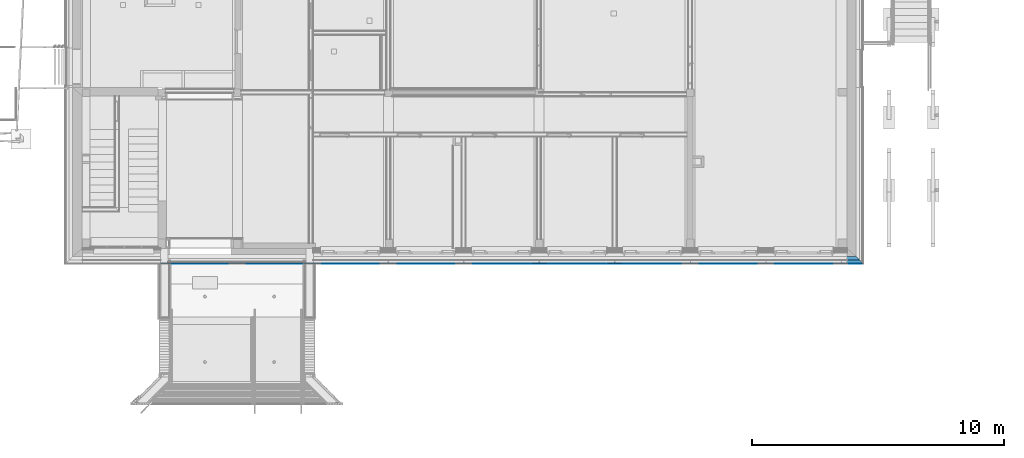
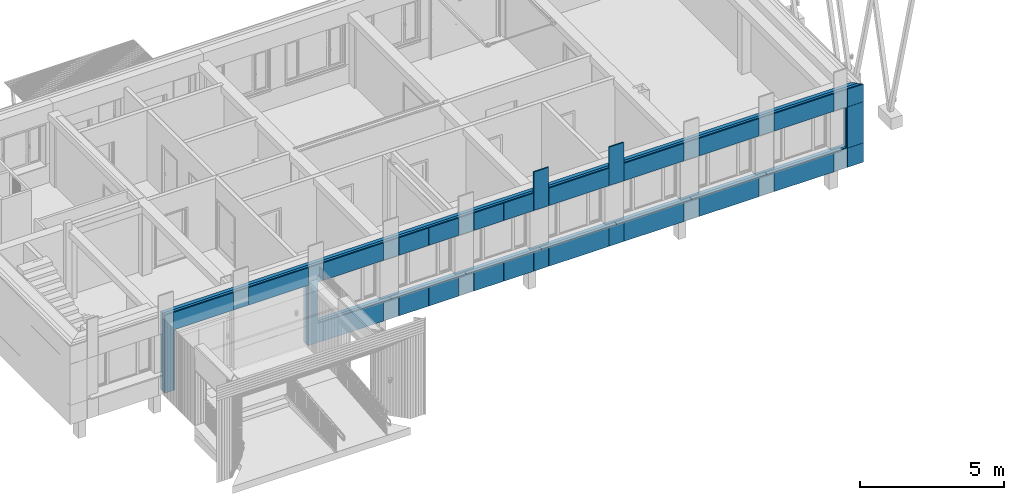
# One storey, part 39 of 418: 12 building element parts, 43 openings, 5 elements without a shape of their own.
"""IFC2X3 building model written with IfcOpenShell, lengths in millimetres."""

from ifc_helpers import new_model, entity, si_unit, converted_unit, derived_unit, money_unit, direction, frame, origin_with_axes, origin_2d_with_axis, place, context, subcontext, project, spatial, polyline, rectangle, outline, extrude, material, type_object, element, aggregate, save


model = new_model("IFC2X3")

# Units and contexts
model_context = context("Model", 3, precision=0.01, world=origin_with_axes(), true_north=direction((0.0, 1.0)))
body_context = subcontext(model_context, "Body", "Model", "MODEL_VIEW")
ifc_project = project(units=[si_unit("LENGTHUNIT", "METRE", prefix="MILLI"), si_unit("AREAUNIT", "SQUARE_METRE"), si_unit("VOLUMEUNIT", "CUBIC_METRE"), converted_unit("PLANEANGLEUNIT", "DEGREE", entity("IfcPlaneAngleMeasure", 0.0174532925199), si_unit("PLANEANGLEUNIT", "RADIAN"), dimensions=[0, 0, 0, 0, 0, 0, 0]), si_unit("SOLIDANGLEUNIT", "STERADIAN"), money_unit("EUR"), converted_unit("TIMEUNIT", "Year", entity("IfcTimeMeasure", 31556926.0), si_unit("TIMEUNIT", "SECOND"), dimensions=[0, 0, 1, 0, 0, 0, 0]), si_unit("MASSUNIT", "GRAM", prefix="KILO"), si_unit("THERMODYNAMICTEMPERATUREUNIT", "DEGREE_CELSIUS"), si_unit("LUMINOUSINTENSITYUNIT", "LUMEN"), si_unit("ENERGYUNIT", "JOULE", prefix="MEGA"), derived_unit("THERMALCONDUCTANCEUNIT", [(si_unit("POWERUNIT", "WATT"), 1), (si_unit("LENGTHUNIT", "METRE"), -1), (si_unit("THERMODYNAMICTEMPERATUREUNIT", "KELVIN"), -1)]), derived_unit("SPECIFICHEATCAPACITYUNIT", [(si_unit("ENERGYUNIT", "JOULE"), 1), (si_unit("MASSUNIT", "GRAM", prefix="KILO"), -1), (si_unit("THERMODYNAMICTEMPERATUREUNIT", "KELVIN"), -1)]), derived_unit("MASSDENSITYUNIT", [(si_unit("MASSUNIT", "GRAM", prefix="KILO"), 1), (si_unit("VOLUMEUNIT", "CUBIC_METRE"), -1)])], contexts=[model_context])

# Site, building, storey
site_placement = place(None, origin_with_axes())
site = spatial("IfcSite", under=ifc_project, at=site_placement, Name="Paldiski mnt 245/1, Tallinn, Harjumaa", CompositionType="COMPLEX")
building_placement = place(site_placement, origin_with_axes())
building = spatial("IfcBuilding", under=site, at=building_placement, Name="RKAS Hoone üldnimetus (kasutust iseloomustav) -> IFC Project Manager -> SOLIBRI", CompositionType="ELEMENT")
storey_placement = place(building_placement, origin_with_axes())
storey = spatial("IfcBuildingStorey", under=building, at=storey_placement, Name="Esimene korrus", CompositionType="ELEMENT", Elevation=0.0)

# Covering, building element parts
covering_type = type_object("IfcCoveringType", Name="VS-02_Cembrit_c040 50", PredefinedType="NOTDEFINED")
covering_1_placement = place(storey_placement, frame((-26746.0, -13130.0843011, 0.0), z_axis=(0.0, 0.0, 1.0), x_axis=(1.0, 0.0, 0.0)))
covering_1 = element("IfcCovering", 1, at=covering_1_placement, inside=storey, type_object=covering_type, Name="VS-02", PredefinedType="NOTDEFINED")
ifc_material_1 = material(Name="Cembrit_C040")
building_element_part_1_placement = place(covering_1_placement, origin_with_axes())
building_element_part_1 = element("IfcBuildingElementPart", 2, at=building_element_part_1_placement, material=ifc_material_1, Name="Cembrit_C040", context=body_context, shape_type="SweptSolid", body=[
    extrude(outline(polyline([(0.0, 0.0), (592.0, 0.0), (592.0, 8.0), (0.0, 8.0), (0.0, 0.0)])), origin_with_axes(), (0.0, 0.0, 1.0), 810.0),
])
ifc_material_2 = material(Name="VKR-06_Õhkvahe")
building_element_part_2_placement = place(covering_1_placement, origin_with_axes())
building_element_part_2 = element("IfcBuildingElementPart", 3, at=building_element_part_2_placement, material=ifc_material_2, Name="VKR-06_Õhkvahe", context=body_context, shape_type="SweptSolid", body=[
    extrude(outline(polyline([(0.0, 8.0), (592.0, 8.0), (592.0, 50.0), (0.0, 50.0), (0.0, 8.0)])), origin_with_axes(), (0.0, 0.0, 1.0), 810.0),
])
aggregate(covering_1, [building_element_part_1, building_element_part_2])

covering_2_placement = place(storey_placement, frame((-29746.0, -13130.0843011, 0.0), z_axis=(0.0, 0.0, 1.0), x_axis=(1.0, 0.0, 0.0)))
covering_2 = element("IfcCovering", 4, at=covering_2_placement, inside=storey, type_object=covering_type, Name="VS-02", PredefinedType="NOTDEFINED")
building_element_part_3_placement = place(covering_2_placement, origin_with_axes())
building_element_part_3 = element("IfcBuildingElementPart", 5, at=building_element_part_3_placement, material=ifc_material_1, Name="Cembrit_C040", context=body_context, shape_type="SweptSolid", body=[
    extrude(outline(polyline([(0.0, 0.0), (592.0, 0.0), (592.0, 8.0), (0.0, 8.0), (0.0, 0.0)])), origin_with_axes(), (0.0, 0.0, 1.0), 810.0),
])
building_element_part_4_placement = place(covering_2_placement, origin_with_axes())
building_element_part_4 = element("IfcBuildingElementPart", 6, at=building_element_part_4_placement, material=ifc_material_2, Name="VKR-06_Õhkvahe", context=body_context, shape_type="SweptSolid", body=[
    extrude(outline(polyline([(0.0, 8.0), (592.0, 8.0), (592.0, 50.0), (0.0, 50.0), (0.0, 8.0)])), origin_with_axes(), (0.0, 0.0, 1.0), 810.0),
])
aggregate(covering_2, [building_element_part_3, building_element_part_4])

covering_3_placement = place(storey_placement, frame((-29746.0, -13130.0843011, 2560.0), z_axis=(0.0, 0.0, 1.0), x_axis=(1.0, 0.0, 0.0)))
covering_3 = element("IfcCovering", 7, at=covering_3_placement, inside=storey, type_object=covering_type, Name="VS-02", PredefinedType="NOTDEFINED")
building_element_part_5_placement = place(covering_3_placement, origin_with_axes())
building_element_part_5 = element("IfcBuildingElementPart", 8, at=building_element_part_5_placement, material=ifc_material_1, Name="Cembrit_C040", context=body_context, shape_type="SweptSolid", body=[
    extrude(outline(polyline([(0.0, 0.0), (592.0, 0.0), (592.0, 8.0), (0.0, 8.0), (0.0, 0.0)])), origin_with_axes(), (0.0, 0.0, 1.0), 1630.0),
])
building_element_part_6_placement = place(covering_3_placement, origin_with_axes())
building_element_part_6 = element("IfcBuildingElementPart", 9, at=building_element_part_6_placement, material=ifc_material_2, Name="VKR-06_Õhkvahe", context=body_context, shape_type="SweptSolid", body=[
    extrude(outline(polyline([(0.0, 8.0), (592.0, 8.0), (592.0, 50.0), (0.0, 50.0), (0.0, 8.0)])), origin_with_axes(), (0.0, 0.0, 1.0), 1630.0),
])
aggregate(covering_3, [building_element_part_5, building_element_part_6])

# Wall, openings, building element parts
wall_type = type_object("IfcWallType", Name="VS-02_uued_kihid 300", PredefinedType="NOTDEFINED")
wall_placement = place(storey_placement, frame((-16879.9999755, -12830.0843011, 0.0), z_axis=(0.0, 0.0, 1.0), x_axis=(-1.0, 0.0, 0.0)))
wall = element("IfcWall", 10, at=wall_placement, inside=storey, type_object=wall_type, Name="VS-02")
opening_1_placement = place(wall_placement, frame((15570.0000245, -3.64153152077e-10, 0.0), z_axis=(0.0, 0.0, 1.0), x_axis=(1.0, 0.0, 0.0)))
element("IfcOpeningElement", 11, at=opening_1_placement, cuts=wall, Name="Cembrit fassaadiplaadi vuuk", context=body_context, shape_type="SweptSolid", body=[
    extrude(outline(polyline([(-296.0, 0.0), (296.0, 0.0), (296.0, 3300.0), (-296.0, 3300.0), (-296.0, 0.0)])), frame((0.0, 292.0, 0.0), z_axis=(0.0, -1.0, 0.0), x_axis=(1.0, 0.0, 0.0)), (0.0, 0.0, -1.0), 308.0),
])
opening_2_placement = place(wall_placement, frame((27474.5000245, -6.43041175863e-10, 0.0), z_axis=(0.0, 0.0, 1.0), x_axis=(1.0, 0.0, 0.0)))
element("IfcOpeningElement", 12, at=opening_2_placement, cuts=wall, Name="Cembrit fassaadiplaadi vuuk", context=body_context, shape_type="SweptSolid", body=[
    extrude(outline(polyline([(-200.5, 0.0), (200.5, 0.0), (200.5, 3300.0), (-200.5, 3300.0), (-200.5, 0.0)])), frame((0.0, 292.000000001, 0.0), z_axis=(0.0, -1.0, 0.0), x_axis=(1.0, 0.0, 0.0)), (0.0, 0.0, -1.0), 308.0),
])
opening_3_placement = place(wall_placement, frame((15870.0000245, -3.71258579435e-10, 0.0), z_axis=(0.0, 0.0, 1.0), x_axis=(1.0, 0.0, 0.0)))
element("IfcOpeningElement", 13, at=opening_3_placement, cuts=wall, Name="Cembrit fassaadiplaadi vuuk", context=body_context, shape_type="SweptSolid", body=[
    extrude(outline(polyline([(-4.0, 0.0), (4.0, 0.0), (4.0, 3300.0), (-4.0, 3300.0), (-4.0, 0.0)])), frame((0.0, 292.0, 0.0), z_axis=(0.0, -1.0, 0.0), x_axis=(1.0, 0.0, 0.0)), (0.0, 0.0, -1.0), 308.0),
])
opening_4_placement = place(wall_placement, frame((15270.0000245, -3.57047724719e-10, 0.0), z_axis=(0.0, 0.0, 1.0), x_axis=(1.0, 0.0, 0.0)))
element("IfcOpeningElement", 14, at=opening_4_placement, cuts=wall, Name="Cembrit fassaadiplaadi vuuk", context=body_context, shape_type="SweptSolid", body=[
    extrude(outline(polyline([(-4.0, 0.0), (4.0, 0.0), (4.0, 3300.0), (-4.0, 3300.0), (-4.0, 0.0)])), frame((0.0, 292.0, 0.0), z_axis=(0.0, -1.0, 0.0), x_axis=(1.0, 0.0, 0.0)), (0.0, 0.0, -1.0), 308.0),
])
opening_5_placement = place(wall_placement, frame((12870.0000245, -3.01980662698e-10, 0.0), z_axis=(0.0, 0.0, 1.0), x_axis=(1.0, 0.0, 0.0)))
element("IfcOpeningElement", 15, at=opening_5_placement, cuts=wall, Name="Cembrit fassaadiplaadi vuuk", context=body_context, shape_type="SweptSolid", body=[
    extrude(outline(polyline([(-4.0, 0.0), (4.0, 0.0), (4.0, 3300.0), (-4.0, 3300.0), (-4.0, 0.0)])), frame((0.0, 292.0, 0.0), z_axis=(0.0, -1.0, 0.0), x_axis=(1.0, 0.0, 0.0)), (0.0, 0.0, -1.0), 308.0),
])
opening_6_placement = place(wall_placement, frame((12270.0000245, -2.87769807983e-10, 0.0), z_axis=(0.0, 0.0, 1.0), x_axis=(1.0, 0.0, 0.0)))
element("IfcOpeningElement", 16, at=opening_6_placement, cuts=wall, Name="Cembrit fassaadiplaadi vuuk", context=body_context, shape_type="SweptSolid", body=[
    extrude(outline(polyline([(-4.0, 0.0), (4.0, 0.0), (4.0, 3300.0), (-4.0, 3300.0), (-4.0, 0.0)])), frame((0.0, 292.0, 0.0), z_axis=(0.0, -1.0, 0.0), x_axis=(1.0, 0.0, 0.0)), (0.0, 0.0, -1.0), 308.0),
])
opening_7_placement = place(wall_placement, frame((9870.00002449, -2.30926389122e-10, 0.0), z_axis=(0.0, 0.0, 1.0), x_axis=(1.0, 0.0, 0.0)))
element("IfcOpeningElement", 17, at=opening_7_placement, cuts=wall, Name="Cembrit fassaadiplaadi vuuk", context=body_context, shape_type="SweptSolid", body=[
    extrude(outline(polyline([(-4.0, 0.0), (4.0, 0.0), (4.0, 3300.0), (-4.0, 3300.0), (-4.0, 0.0)])), frame((0.0, 292.0, 0.0), z_axis=(0.0, -1.0, 0.0), x_axis=(1.0, 0.0, 0.0)), (0.0, 0.0, -1.0), 308.0),
])
opening_8_placement = place(wall_placement, frame((9270.00002449, -2.16715534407e-10, 0.0), z_axis=(0.0, 0.0, 1.0), x_axis=(1.0, 0.0, 0.0)))
element("IfcOpeningElement", 18, at=opening_8_placement, cuts=wall, Name="Cembrit fassaadiplaadi vuuk", context=body_context, shape_type="SweptSolid", body=[
    extrude(outline(polyline([(-4.0, 0.0), (4.0, 0.0), (4.0, 3300.0), (-4.0, 3300.0), (-4.0, 0.0)])), frame((0.0, 292.0, 0.0), z_axis=(0.0, -1.0, 0.0), x_axis=(1.0, 0.0, 0.0)), (0.0, 0.0, -1.0), 308.0),
])
opening_9_placement = place(wall_placement, frame((6870.00002449, -1.61648472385e-10, 0.0), z_axis=(0.0, 0.0, 1.0), x_axis=(1.0, 0.0, 0.0)))
element("IfcOpeningElement", 19, at=opening_9_placement, cuts=wall, Name="Cembrit fassaadiplaadi vuuk", context=body_context, shape_type="SweptSolid", body=[
    extrude(outline(polyline([(-4.0, 0.0), (4.0, 0.0), (4.0, 3300.0), (-4.0, 3300.0), (-4.0, 0.0)])), frame((0.0, 292.0, 0.0), z_axis=(0.0, -1.0, 0.0), x_axis=(1.0, 0.0, 0.0)), (0.0, 0.0, -1.0), 308.0),
])
opening_10_placement = place(wall_placement, frame((6270.00002449, -1.4743761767e-10, 0.0), z_axis=(0.0, 0.0, 1.0), x_axis=(1.0, 0.0, 0.0)))
element("IfcOpeningElement", 20, at=opening_10_placement, cuts=wall, Name="Cembrit fassaadiplaadi vuuk", context=body_context, shape_type="SweptSolid", body=[
    extrude(outline(polyline([(-4.0, 0.0), (4.0, 0.0), (4.0, 3300.0), (-4.0, 3300.0), (-4.0, 0.0)])), frame((0.0, 292.0, 0.0), z_axis=(0.0, -1.0, 0.0), x_axis=(1.0, 0.0, 0.0)), (0.0, 0.0, -1.0), 308.0),
])
opening_11_placement = place(wall_placement, frame((3870.00002449, 0.0, 0.0), z_axis=(0.0, 0.0, 1.0), x_axis=(1.0, 0.0, 0.0)))
element("IfcOpeningElement", 21, at=opening_11_placement, cuts=wall, Name="Cembrit fassaadiplaadi vuuk", context=body_context, shape_type="SweptSolid", body=[
    extrude(outline(polyline([(-4.0, 0.0), (4.0, 0.0), (4.0, 3300.0), (-4.0, 3300.0), (-4.0, 0.0)])), frame((0.0, 292.0, 0.0), z_axis=(0.0, -1.0, 0.0), x_axis=(1.0, 0.0, 0.0)), (0.0, 0.0, -1.0), 308.0),
])
opening_12_placement = place(wall_placement, frame((3270.00002449, 0.0, 0.0), z_axis=(0.0, 0.0, 1.0), x_axis=(1.0, 0.0, 0.0)))
element("IfcOpeningElement", 22, at=opening_12_placement, cuts=wall, Name="Cembrit fassaadiplaadi vuuk", context=body_context, shape_type="SweptSolid", body=[
    extrude(outline(polyline([(-4.0, 0.0), (4.0, 0.0), (4.0, 3300.0), (-4.0, 3300.0), (-4.0, 0.0)])), frame((0.0, 292.0, 0.0), z_axis=(0.0, -1.0, 0.0), x_axis=(1.0, 0.0, 0.0)), (0.0, 0.0, -1.0), 308.0),
])
opening_13_placement = place(wall_placement, frame((870.000024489, 0.0, 0.0), z_axis=(0.0, 0.0, 1.0), x_axis=(1.0, 0.0, 0.0)))
element("IfcOpeningElement", 23, at=opening_13_placement, cuts=wall, Name="Cembrit fassaadiplaadi vuuk", context=body_context, shape_type="SweptSolid", body=[
    extrude(outline(polyline([(-4.0, 0.0), (4.0, 0.0), (4.0, 3300.0), (-4.0, 3300.0), (-4.0, 0.0)])), frame((0.0, 292.0, 0.0), z_axis=(0.0, -1.0, 0.0), x_axis=(1.0, 0.0, 0.0)), (0.0, 0.0, -1.0), 308.0),
])
opening_14_placement = place(wall_placement, frame((12570.0000245, -2.9487523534e-10, 0.0), z_axis=(0.0, 0.0, 1.0), x_axis=(1.0, 0.0, 0.0)))
element("IfcOpeningElement", 24, at=opening_14_placement, cuts=wall, Name="Cembrit fassaadiplaadi vuuk", context=body_context, shape_type="SweptSolid", body=[
    extrude(outline(polyline([(-296.0, 0.0), (296.0, 0.0), (296.0, 3300.0), (-296.0, 3300.0), (-296.0, 0.0)])), frame((0.0, 292.0, 0.0), z_axis=(0.0, -1.0, 0.0), x_axis=(1.0, 0.0, 0.0)), (0.0, 0.0, -1.0), 308.0),
])
opening_15_placement = place(wall_placement, frame((9570.00002449, -2.23820961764e-10, 0.0), z_axis=(0.0, 0.0, 1.0), x_axis=(1.0, 0.0, 0.0)))
element("IfcOpeningElement", 25, at=opening_15_placement, cuts=wall, Name="Cembrit fassaadiplaadi vuuk", context=body_context, shape_type="SweptSolid", body=[
    extrude(outline(polyline([(-296.0, 0.0), (296.0, 0.0), (296.0, 3300.0), (-296.0, 3300.0), (-296.0, 0.0)])), frame((0.0, 292.0, 0.0), z_axis=(0.0, -1.0, 0.0), x_axis=(1.0, 0.0, 0.0)), (0.0, 0.0, -1.0), 308.0),
])
opening_16_placement = place(wall_placement, frame((6570.00002449, -1.54543045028e-10, 0.0), z_axis=(0.0, 0.0, 1.0), x_axis=(1.0, 0.0, 0.0)))
element("IfcOpeningElement", 26, at=opening_16_placement, cuts=wall, Name="Cembrit fassaadiplaadi vuuk", context=body_context, shape_type="SweptSolid", body=[
    extrude(outline(polyline([(-296.0, 0.0), (296.0, 0.0), (296.0, 3300.0), (-296.0, 3300.0), (-296.0, 0.0)])), frame((0.0, 292.0, 0.0), z_axis=(0.0, -1.0, 0.0), x_axis=(1.0, 0.0, 0.0)), (0.0, 0.0, -1.0), 308.0),
])
opening_17_placement = place(wall_placement, frame((3570.00002449, 0.0, 0.0), z_axis=(0.0, 0.0, 1.0), x_axis=(1.0, 0.0, 0.0)))
element("IfcOpeningElement", 27, at=opening_17_placement, cuts=wall, Name="Cembrit fassaadiplaadi vuuk", context=body_context, shape_type="SweptSolid", body=[
    extrude(outline(polyline([(-296.0, 0.0), (296.0, 0.0), (296.0, 3300.0), (-296.0, 3300.0), (-296.0, 0.0)])), frame((0.0, 292.0, 0.0), z_axis=(0.0, -1.0, 0.0), x_axis=(1.0, 0.0, 0.0)), (0.0, 0.0, -1.0), 308.0),
])
opening_18_placement = place(wall_placement, frame((608.000024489, 0.0, 0.0), z_axis=(0.0, 0.0, 1.0), x_axis=(1.0, 0.0, 0.0)))
element("IfcOpeningElement", 28, at=opening_18_placement, cuts=wall, Name="Cembrit fassaadiplaadi vuuk", context=body_context, shape_type="SweptSolid", body=[
    extrude(outline(polyline([(-258.0, 0.0), (258.0, 0.0), (258.0, 3300.0), (-258.0, 3300.0), (-258.0, 0.0)])), frame((0.0, 292.0, 0.0), z_axis=(0.0, -1.0, 0.0), x_axis=(1.0, 0.0, 0.0)), (0.0, 0.0, -1.0), 308.0),
])
opening_19_placement = place(wall_placement, frame((18570.0000245, -4.35207425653e-10, 0.0), z_axis=(0.0, 0.0, 1.0), x_axis=(1.0, 0.0, 0.0)))
element("IfcOpeningElement", 29, at=opening_19_placement, cuts=wall, Name="Cembrit fassaadiplaadi vuuk", context=body_context, shape_type="SweptSolid", body=[
    extrude(outline(polyline([(-296.0, 0.0), (296.0, 0.0), (296.0, 3300.0), (-296.0, 3300.0), (-296.0, 0.0)])), frame((0.0, 292.0, 0.0), z_axis=(0.0, -1.0, 0.0), x_axis=(1.0, 0.0, 0.0)), (0.0, 0.0, -1.0), 308.0),
])
opening_20_placement = place(wall_placement, frame((18870.0000245, -4.42312853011e-10, 0.0), z_axis=(0.0, 0.0, 1.0), x_axis=(1.0, 0.0, 0.0)))
element("IfcOpeningElement", 30, at=opening_20_placement, cuts=wall, Name="Cembrit fassaadiplaadi vuuk", context=body_context, shape_type="SweptSolid", body=[
    extrude(outline(polyline([(-4.0, 0.0), (4.0, 0.0), (4.0, 3300.0), (-4.0, 3300.0), (-4.0, 0.0)])), frame((0.0, 292.0, 0.0), z_axis=(0.0, -1.0, 0.0), x_axis=(1.0, 0.0, 0.0)), (0.0, 0.0, -1.0), 308.0),
])
opening_21_placement = place(wall_placement, frame((18270.0000245, -4.28101998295e-10, 0.0), z_axis=(0.0, 0.0, 1.0), x_axis=(1.0, 0.0, 0.0)))
element("IfcOpeningElement", 31, at=opening_21_placement, cuts=wall, Name="Cembrit fassaadiplaadi vuuk", context=body_context, shape_type="SweptSolid", body=[
    extrude(outline(polyline([(-4.0, 0.0), (4.0, 0.0), (4.0, 3300.0), (-4.0, 3300.0), (-4.0, 0.0)])), frame((0.0, 292.0, 0.0), z_axis=(0.0, -1.0, 0.0), x_axis=(1.0, 0.0, 0.0)), (0.0, 0.0, -1.0), 308.0),
])
opening_22_placement = place(wall_placement, frame((21570.0000245, -5.0448534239e-10, 0.0), z_axis=(0.0, 0.0, 1.0), x_axis=(1.0, 0.0, 0.0)))
element("IfcOpeningElement", 32, at=opening_22_placement, cuts=wall, Name="Cembrit fassaadiplaadi vuuk", context=body_context, shape_type="SweptSolid", body=[
    extrude(outline(polyline([(-296.0, 0.0), (296.0, 0.0), (296.0, 3300.0), (-296.0, 3300.0), (-296.0, 0.0)])), frame((0.0, 292.000000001, 0.0), z_axis=(0.0, -1.0, 0.0), x_axis=(1.0, 0.0, 0.0)), (0.0, 0.0, -1.0), 308.0),
])
opening_23_placement = place(wall_placement, frame((21870.0000245, -5.11590769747e-10, 0.0), z_axis=(0.0, 0.0, 1.0), x_axis=(1.0, 0.0, 0.0)))
element("IfcOpeningElement", 33, at=opening_23_placement, cuts=wall, Name="Cembrit fassaadiplaadi vuuk", context=body_context, shape_type="SweptSolid", body=[
    extrude(outline(polyline([(-4.0, 0.0), (4.0, 0.0), (4.0, 3300.0), (-4.0, 3300.0), (-4.0, 0.0)])), frame((0.0, 292.000000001, 0.0), z_axis=(0.0, -1.0, 0.0), x_axis=(1.0, 0.0, 0.0)), (0.0, 0.0, -1.0), 308.0),
])
opening_24_placement = place(wall_placement, frame((21270.0000245, -4.97379915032e-10, 0.0), z_axis=(0.0, 0.0, 1.0), x_axis=(1.0, 0.0, 0.0)))
element("IfcOpeningElement", 34, at=opening_24_placement, cuts=wall, Name="Cembrit fassaadiplaadi vuuk", context=body_context, shape_type="SweptSolid", body=[
    extrude(outline(polyline([(-4.0, 0.0), (4.0, 0.0), (4.0, 3300.0), (-4.0, 3300.0), (-4.0, 0.0)])), frame((0.0, 292.0, 0.0), z_axis=(0.0, -1.0, 0.0), x_axis=(1.0, 0.0, 0.0)), (0.0, 0.0, -1.0), 308.0),
])
opening_25_placement = place(wall_placement, frame((24870.0000245, -5.82645043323e-10, 0.0), z_axis=(0.0, 0.0, 1.0), x_axis=(1.0, 0.0, 0.0)))
element("IfcOpeningElement", 35, at=opening_25_placement, cuts=wall, Name="Cembrit fassaadiplaadi vuuk", context=body_context, shape_type="SweptSolid", body=[
    extrude(outline(polyline([(-4.0, 0.0), (4.0, 0.0), (4.0, 3300.0), (-4.0, 3300.0), (-4.0, 0.0)])), frame((0.0, 292.000000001, 0.0), z_axis=(0.0, -1.0, 0.0), x_axis=(1.0, 0.0, 0.0)), (0.0, 0.0, -1.0), 308.0),
])
opening_26_placement = place(wall_placement, frame((24270.0000245, -5.68434188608e-10, 0.0), z_axis=(0.0, 0.0, 1.0), x_axis=(1.0, 0.0, 0.0)))
element("IfcOpeningElement", 36, at=opening_26_placement, cuts=wall, Name="Cembrit fassaadiplaadi vuuk", context=body_context, shape_type="SweptSolid", body=[
    extrude(outline(polyline([(-4.0, 0.0), (4.0, 0.0), (4.0, 3300.0), (-4.0, 3300.0), (-4.0, 0.0)])), frame((0.0, 292.000000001, 0.0), z_axis=(0.0, -1.0, 0.0), x_axis=(1.0, 0.0, 0.0)), (0.0, 0.0, -1.0), 308.0),
])
opening_27_placement = place(wall_placement, frame((24570.0000245, -5.75539615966e-10, 0.0), z_axis=(0.0, 0.0, 1.0), x_axis=(1.0, 0.0, 0.0)))
element("IfcOpeningElement", 37, at=opening_27_placement, cuts=wall, Name="Cembrit fassaadiplaadi vuuk", context=body_context, shape_type="SweptSolid", body=[
    extrude(outline(polyline([(-296.0, 0.0), (296.0, 0.0), (296.0, 3300.0), (-296.0, 3300.0), (-296.0, 0.0)])), frame((0.0, 292.000000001, 0.0), z_axis=(0.0, -1.0, 0.0), x_axis=(1.0, 0.0, 0.0)), (0.0, 0.0, -1.0), 308.0),
])
opening_28_placement = place(wall_placement, frame((27270.0000245, -6.39488462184e-10, 0.0), z_axis=(0.0, 0.0, 1.0), x_axis=(1.0, 0.0, 0.0)))
element("IfcOpeningElement", 38, at=opening_28_placement, cuts=wall, Name="Cembrit fassaadiplaadi vuuk", context=body_context, shape_type="SweptSolid", body=[
    extrude(outline(polyline([(-4.0, 0.0), (4.0, 0.0), (4.0, 3300.0), (-4.0, 3300.0), (-4.0, 0.0)])), frame((0.0, 292.000000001, 0.0), z_axis=(0.0, -1.0, 0.0), x_axis=(1.0, 0.0, 0.0)), (0.0, 0.0, -1.0), 308.0),
])
opening_29_placement = place(wall_placement, frame((26070.0000245, -6.11066752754e-10, 0.0), z_axis=(0.0, 0.0, 1.0), x_axis=(1.0, 0.0, 0.0)))
element("IfcOpeningElement", 39, at=opening_29_placement, cuts=wall, Name="Cembrit fassaadiplaadi vuuk", context=body_context, shape_type="SweptSolid", body=[
    extrude(outline(polyline([(-4.0, 0.0), (4.0, 0.0), (4.0, 3300.0), (-4.0, 3300.0), (-4.0, 0.0)])), frame((0.0, 292.000000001, 0.0), z_axis=(0.0, -1.0, 0.0), x_axis=(1.0, 0.0, 0.0)), (0.0, 0.0, -1.0), 308.0),
])
opening_30_placement = place(wall_placement, frame((23070.0000245, -5.40012479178e-10, 0.0), z_axis=(0.0, 0.0, 1.0), x_axis=(1.0, 0.0, 0.0)))
element("IfcOpeningElement", 40, at=opening_30_placement, cuts=wall, Name="Cembrit fassaadiplaadi vuuk", context=body_context, shape_type="SweptSolid", body=[
    extrude(outline(polyline([(-4.0, 0.0), (4.0, 0.0), (4.0, 3300.0), (-4.0, 3300.0), (-4.0, 0.0)])), frame((0.0, 292.000000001, 0.0), z_axis=(0.0, -1.0, 0.0), x_axis=(1.0, 0.0, 0.0)), (0.0, 0.0, -1.0), 308.0),
])
opening_31_placement = place(wall_placement, frame((20070.0000245, -4.70734562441e-10, 0.0), z_axis=(0.0, 0.0, 1.0), x_axis=(1.0, 0.0, 0.0)))
element("IfcOpeningElement", 41, at=opening_31_placement, cuts=wall, Name="Cembrit fassaadiplaadi vuuk", context=body_context, shape_type="SweptSolid", body=[
    extrude(outline(polyline([(-4.0, 0.0), (4.0, 0.0), (4.0, 3300.0), (-4.0, 3300.0), (-4.0, 0.0)])), frame((0.0, 292.0, 0.0), z_axis=(0.0, -1.0, 0.0), x_axis=(1.0, 0.0, 0.0)), (0.0, 0.0, -1.0), 308.0),
])
opening_32_placement = place(wall_placement, frame((17070.0000245, -3.99680288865e-10, 0.0), z_axis=(0.0, 0.0, 1.0), x_axis=(1.0, 0.0, 0.0)))
element("IfcOpeningElement", 42, at=opening_32_placement, cuts=wall, Name="Cembrit fassaadiplaadi vuuk", context=body_context, shape_type="SweptSolid", body=[
    extrude(outline(polyline([(-4.0, 0.0), (4.0, 0.0), (4.0, 3300.0), (-4.0, 3300.0), (-4.0, 0.0)])), frame((0.0, 292.0, 0.0), z_axis=(0.0, -1.0, 0.0), x_axis=(1.0, 0.0, 0.0)), (0.0, 0.0, -1.0), 308.0),
])
opening_33_placement = place(wall_placement, frame((14070.0000245, -3.28626015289e-10, 0.0), z_axis=(0.0, 0.0, 1.0), x_axis=(1.0, 0.0, 0.0)))
element("IfcOpeningElement", 43, at=opening_33_placement, cuts=wall, Name="Cembrit fassaadiplaadi vuuk", context=body_context, shape_type="SweptSolid", body=[
    extrude(outline(polyline([(-4.0, 0.0), (4.0, 0.0), (4.0, 3300.0), (-4.0, 3300.0), (-4.0, 0.0)])), frame((0.0, 292.0, 0.0), z_axis=(0.0, -1.0, 0.0), x_axis=(1.0, 0.0, 0.0)), (0.0, 0.0, -1.0), 308.0),
])
opening_34_placement = place(wall_placement, frame((11070.0000245, -2.59348098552e-10, 0.0), z_axis=(0.0, 0.0, 1.0), x_axis=(1.0, 0.0, 0.0)))
element("IfcOpeningElement", 44, at=opening_34_placement, cuts=wall, Name="Cembrit fassaadiplaadi vuuk", context=body_context, shape_type="SweptSolid", body=[
    extrude(outline(polyline([(-4.0, 0.0), (4.0, 0.0), (4.0, 3300.0), (-4.0, 3300.0), (-4.0, 0.0)])), frame((0.0, 292.0, 0.0), z_axis=(0.0, -1.0, 0.0), x_axis=(1.0, 0.0, 0.0)), (0.0, 0.0, -1.0), 308.0),
])
opening_35_placement = place(wall_placement, frame((8070.00002449, -1.88293824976e-10, 0.0), z_axis=(0.0, 0.0, 1.0), x_axis=(1.0, 0.0, 0.0)))
element("IfcOpeningElement", 45, at=opening_35_placement, cuts=wall, Name="Cembrit fassaadiplaadi vuuk", context=body_context, shape_type="SweptSolid", body=[
    extrude(outline(polyline([(-4.0, 0.0), (4.0, 0.0), (4.0, 3300.0), (-4.0, 3300.0), (-4.0, 0.0)])), frame((0.0, 292.0, 0.0), z_axis=(0.0, -1.0, 0.0), x_axis=(1.0, 0.0, 0.0)), (0.0, 0.0, -1.0), 308.0),
])
opening_36_placement = place(wall_placement, frame((5070.00002449, -1.1901590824e-10, 0.0), z_axis=(0.0, 0.0, 1.0), x_axis=(1.0, 0.0, 0.0)))
element("IfcOpeningElement", 46, at=opening_36_placement, cuts=wall, Name="Cembrit fassaadiplaadi vuuk", context=body_context, shape_type="SweptSolid", body=[
    extrude(outline(polyline([(-4.0, 0.0), (4.0, 0.0), (4.0, 3300.0), (-4.0, 3300.0), (-4.0, 0.0)])), frame((0.0, 292.0, 0.0), z_axis=(0.0, -1.0, 0.0), x_axis=(1.0, 0.0, 0.0)), (0.0, 0.0, -1.0), 308.0),
])
opening_37_placement = place(wall_placement, frame((2070.00002449, 0.0, 0.0), z_axis=(0.0, 0.0, 1.0), x_axis=(1.0, 0.0, 0.0)))
element("IfcOpeningElement", 47, at=opening_37_placement, cuts=wall, Name="Cembrit fassaadiplaadi vuuk", context=body_context, shape_type="SweptSolid", body=[
    extrude(outline(polyline([(-4.0, 0.0), (4.0, 0.0), (4.0, 3300.0), (-4.0, 3300.0), (-4.0, 0.0)])), frame((0.0, 292.0, 0.0), z_axis=(0.0, -1.0, 0.0), x_axis=(1.0, 0.0, 0.0)), (0.0, 0.0, -1.0), 308.0),
])
opening_38_placement = place(wall_placement, frame((346.000024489, 0.0, 0.0), z_axis=(0.0, 0.0, 1.0), x_axis=(1.0, 0.0, 0.0)))
element("IfcOpeningElement", 48, at=opening_38_placement, cuts=wall, Name="Cembrit fassaadiplaadi vuuk", context=body_context, shape_type="SweptSolid", body=[
    extrude(outline(polyline([(-4.0, 0.0), (4.0, 0.0), (4.0, 3300.0), (-4.0, 3300.0), (-4.0, 0.0)])), frame((0.0, 292.0, 0.0), z_axis=(0.0, -1.0, 0.0), x_axis=(1.0, 0.0, 0.0)), (0.0, 0.0, -1.0), 308.0),
])
opening_39_placement = place(wall_placement, frame((15550.0000122, -3.64153152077e-10, 2552.0), z_axis=(0.0, 0.0, 1.0), x_axis=(1.0, 0.0, 0.0)))
element("IfcOpeningElement", 49, at=opening_39_placement, cuts=wall, Name="Cembrit fassaadiplaadi vuuk", context=body_context, shape_type="SweptSolid", body=[
    extrude(outline(polyline([(-15850.0000122, 0.0), (15850.0000122, 0.0), (15850.0000122, 8.0), (-15850.0000122, 8.0), (-15850.0000122, 0.0)])), frame((0.0, 292.0, 0.0), z_axis=(0.0, -1.0, 0.0), x_axis=(1.0, 0.0, 0.0)), (0.0, 0.0, -1.0), 308.0),
])
opening_40_placement = place(wall_placement, frame((15535.0000122, -3.64153152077e-10, 810.0), z_axis=(0.0, 0.0, 1.0), x_axis=(1.0, 0.0, 0.0)))
element("IfcOpeningElement", 50, at=opening_40_placement, cuts=wall, Name="Cembrit fassaadiplaadi vuuk", context=body_context, shape_type="SweptSolid", body=[
    extrude(outline(polyline([(-15835.0000122, 0.0), (15835.0000122, 0.0), (15835.0000122, 8.0), (-15835.0000122, 8.0), (-15835.0000122, 0.0)])), frame((0.0, 292.0, 0.0), z_axis=(0.0, -1.0, 0.0), x_axis=(1.0, 0.0, 0.0)), (0.0, 0.0, -1.0), 308.0),
])
opening_41_placement = place(wall_placement, frame((18270.0000245, -4.28101998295e-10, 0.0), z_axis=(0.0, 0.0, 1.0), x_axis=(1.0, 0.0, 0.0)))
element("IfcOpeningElement", 51, at=opening_41_placement, cuts=wall, Name="Cembrit fassaadiplaadi vuuk", context=body_context, shape_type="SweptSolid", body=[
    extrude(outline(polyline([(-4.0, 0.0), (4.0, 0.0), (4.0, 3300.0), (-4.0, 3300.0), (-4.0, 0.0)])), frame((0.0, 292.0, 0.0), z_axis=(0.0, -1.0, 0.0), x_axis=(1.0, 0.0, 0.0)), (0.0, 0.0, -1.0), 308.0),
])
opening_42_placement = place(wall_placement, frame((-16879.9999755, -12830.0843011, 0.0), z_axis=(0.0, 0.0, 1.0), x_axis=(-1.0, 0.0, 0.0)))
element("IfcOpeningElement", 52, at=opening_42_placement, cuts=wall, Name="AVA", ObjectType="OPENING", context=body_context, shape_type="SweptSolid", body=[
    extrude(rectangle(XDim=21140.0000522, YDim=1750.0, at=origin_2d_with_axis()), frame((-27800.0000261, -12530.0843011, 1685.0), z_axis=(0.0, 1.0, 0.0), x_axis=(-1.0, 0.0, 0.0)), (0.0, 0.0, -1.0), 900.000000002),
])
opening_43_placement = place(wall_placement, frame((-16879.9999755, -12830.0843011, 0.0), z_axis=(0.0, 0.0, 1.0), x_axis=(-1.0, 0.0, 0.0)))
element("IfcOpeningElement", 53, at=opening_43_placement, cuts=wall, Name="AVA", ObjectType="OPENING", context=body_context, shape_type="SweptSolid", body=[
    extrude(rectangle(XDim=5325.0, YDim=2557.99999904, at=origin_2d_with_axis()), frame((-41431.9999997, -12530.0843011, 1278.99999952), z_axis=(0.0, 1.0, 0.0), x_axis=(-1.0, 0.0, 0.0)), (0.0, 0.0, -1.0), 900.000000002),
])
ifc_material_3 = material(Name="Cembrit_C020")
building_element_part_7_placement = place(wall_placement, origin_with_axes())
building_element_part_7 = element("IfcBuildingElementPart", 54, at=building_element_part_7_placement, material=ifc_material_3, Name="Cembrit_C020", context=body_context, shape_type="SweptSolid", body=[
    extrude(outline(polyline([(-292.0, 292.0), (27610.0000245, 292.0), (27610.0000245, 300.0), (-300.0, 300.0), (-292.0, 292.0)])), origin_with_axes(), (0.0, 0.0, 1.0), 3300.0),
])
building_element_part_8_placement = place(wall_placement, origin_with_axes())
building_element_part_8 = element("IfcBuildingElementPart", 55, at=building_element_part_8_placement, material=ifc_material_2, Name="VKR-06_Õhkvahe", context=body_context, shape_type="SweptSolid", body=[
    extrude(outline(polyline([(-250.0, 250.0), (27610.0000245, 250.0), (27610.0000245, 292.0), (-292.0, 292.0), (-250.0, 250.0)])), origin_with_axes(), (0.0, 0.0, 1.0), 3300.0),
])
ifc_material_4 = material(Name="Kingspan Kooltherm")
building_element_part_9_placement = place(wall_placement, origin_with_axes())
building_element_part_9 = element("IfcBuildingElementPart", 56, at=building_element_part_9_placement, material=ifc_material_4, Name="Kingspan Kooltherm", context=body_context, shape_type="SweptSolid", body=[
    extrude(outline(polyline([(-150.0, 150.0), (27610.0000245, 150.0), (27610.0000245, 250.0), (-250.0, 250.0), (-150.0, 150.0)])), origin_with_axes(), (0.0, 0.0, 1.0), 3300.0),
])
building_element_part_10_placement = place(wall_placement, origin_with_axes())
building_element_part_10 = element("IfcBuildingElementPart", 57, at=building_element_part_10_placement, material=ifc_material_4, Name="Kingspan Kooltherm", context=body_context, shape_type="SweptSolid", body=[
    extrude(outline(polyline([(0.0, 0.0), (27610.0000245, 0.0), (27610.0000245, 150.0), (-150.0, 150.0), (0.0, 0.0)])), origin_with_axes(), (0.0, 0.0, 1.0), 3300.0),
])
aggregate(wall, [building_element_part_7, building_element_part_8, building_element_part_9, building_element_part_10])

# Covering, building element parts
covering_4_placement = place(storey_placement, frame((-26746.0, -13130.0843011, 2560.0), z_axis=(0.0, 0.0, 1.0), x_axis=(1.0, 0.0, 0.0)))
covering_4 = element("IfcCovering", 58, at=covering_4_placement, inside=storey, type_object=covering_type, Name="VS-02", PredefinedType="NOTDEFINED")
building_element_part_11_placement = place(covering_4_placement, origin_with_axes())
building_element_part_11 = element("IfcBuildingElementPart", 59, at=building_element_part_11_placement, material=ifc_material_1, Name="Cembrit_C040", context=body_context, shape_type="SweptSolid", body=[
    extrude(outline(polyline([(0.0, 0.0), (592.0, 0.0), (592.0, 8.0), (0.0, 8.0), (0.0, 0.0)])), origin_with_axes(), (0.0, 0.0, 1.0), 1630.0),
])
building_element_part_12_placement = place(covering_4_placement, origin_with_axes())
building_element_part_12 = element("IfcBuildingElementPart", 60, at=building_element_part_12_placement, material=ifc_material_2, Name="VKR-06_Õhkvahe", context=body_context, shape_type="SweptSolid", body=[
    extrude(outline(polyline([(0.0, 8.0), (592.0, 8.0), (592.0, 50.0), (0.0, 50.0), (0.0, 8.0)])), origin_with_axes(), (0.0, 0.0, 1.0), 1630.0),
])
aggregate(covering_4, [building_element_part_11, building_element_part_12])

save(model, "model.ifc")
